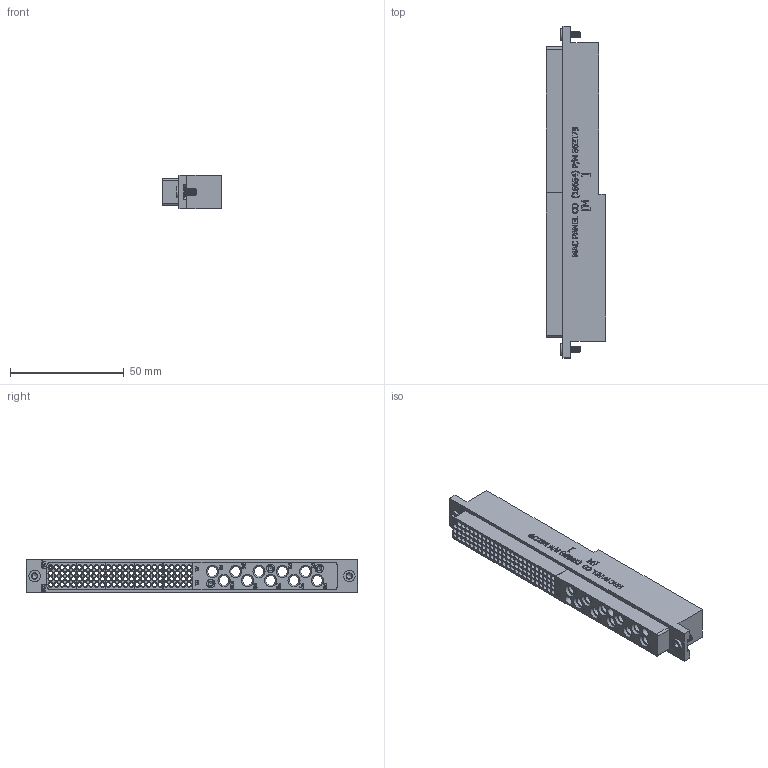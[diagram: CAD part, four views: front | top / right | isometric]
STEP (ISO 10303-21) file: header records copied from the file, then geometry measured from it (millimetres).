
FILE_DESCRIPTION(/* description */ (''),/* implementation_level */ '2;1');
FILE_NAME(/* name */ 'Z:\Inventor\Inventor Web Projects\STP files\562179-RevA-STP.stp',/* time_stamp */ '2014-09-16T10:09:19-04:00',/* author */ ('shodnett'),/* organization */ (''),/* preprocessor_version */ 'ST-DEVELOPER v15.2',/* originating_system */ 'Autodesk Inventor 2014',/* authorisation */ '');
FILE_SCHEMA (('AUTOMOTIVE_DESIGN { 1 0 10303 214 3 1 1 }'));
Products named in the file (1): 562179-CU
Bounding box: 25.98 x 146.05 x 14.86 mm (x, y, z)
Surface area: 32616.5 mm2 (no closed solid volume)
Topology: 0 solids, 16 shells, 2396 faces, 5926 edges, 3942 vertices
Faces by surface type: plane 1206, bspline 700, cylinder 450, cone 33, torus 7
Full cylindrical faces by diameter (mm): 0.005 x3, 1.778 x100, 2.184 x3, 2.261 x200, 2.362 x3, 2.381 x2, 2.769 x3, 2.845 x12, 3.429 x2, 3.556 x3, 3.734 x3, 3.962 x4, 4.064 x2, 4.242 x10, 4.674 x10, 4.699 x10, 5.08 x2, 5.588 x20
Entity records: 78622 total; most frequent: CARTESIAN_POINT 25076, ORIENTED_EDGE 10908, DIRECTION 8193, EDGE_CURVE 5454, VERTEX_POINT 3894, EDGE_LOOP 3432, LINE 3011, VECTOR 3011
